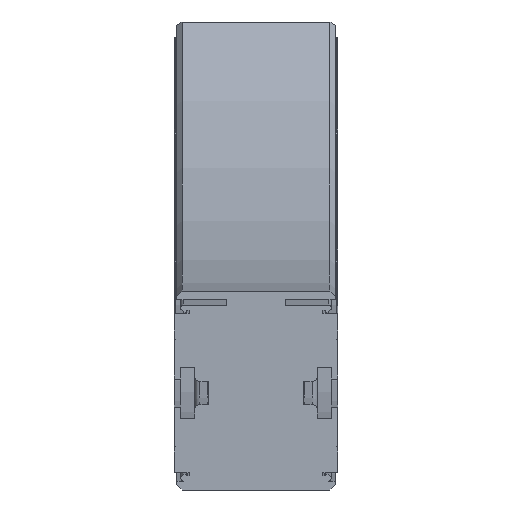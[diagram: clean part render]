
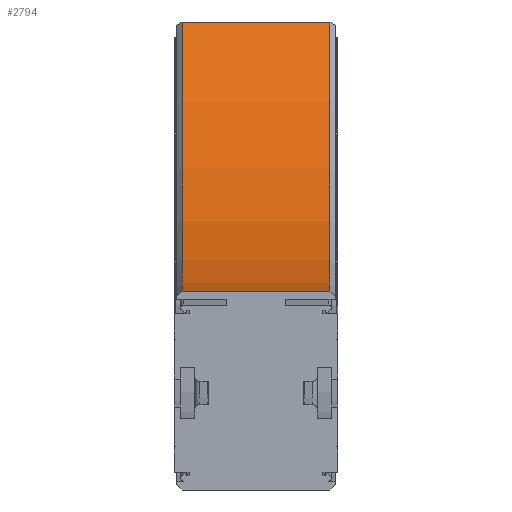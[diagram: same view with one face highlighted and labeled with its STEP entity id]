
A CAD part, front view. The second image highlights one B-rep face of the part: STEP entity #2794.
In plain terms, the highlighted cylindrical face has radius 360 mm (diameter 720 mm), a partial arc.
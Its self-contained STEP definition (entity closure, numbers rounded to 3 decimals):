
#88=CYLINDRICAL_SURFACE('',#3073,360.);
#298=CIRCLE('',#3072,360.);
#299=CIRCLE('',#3074,360.);
#463=FACE_OUTER_BOUND('',#617,.T.);
#617=EDGE_LOOP('',(#2255,#2256,#2257,#2258));
#805=LINE('',#9301,#1011);
#806=LINE('',#9303,#1012);
#1011=VECTOR('',#3758,10.);
#1012=VECTOR('',#3759,10.);
#1277=VERTEX_POINT('',#9294);
#1278=VERTEX_POINT('',#9296);
#1279=VERTEX_POINT('',#9300);
#1280=VERTEX_POINT('',#9302);
#1665=EDGE_CURVE('',#1277,#1278,#298,.T.);
#1666=EDGE_CURVE('',#1279,#1277,#805,.T.);
#1667=EDGE_CURVE('',#1280,#1278,#806,.T.);
#1668=EDGE_CURVE('',#1279,#1280,#299,.T.);
#2255=ORIENTED_EDGE('',*,*,#1666,.T.);
#2256=ORIENTED_EDGE('',*,*,#1665,.T.);
#2257=ORIENTED_EDGE('',*,*,#1667,.F.);
#2258=ORIENTED_EDGE('',*,*,#1668,.F.);
#2794=ADVANCED_FACE('',(#463),#88,.F.);
#3072=AXIS2_PLACEMENT_3D('',#9298,#3754,#3755);
#3073=AXIS2_PLACEMENT_3D('',#9299,#3756,#3757);
#3074=AXIS2_PLACEMENT_3D('',#9304,#3760,#3761);
#3754=DIRECTION('center_axis',(1.,0.,0.));
#3755=DIRECTION('ref_axis',(0.,0.,-1.));
#3756=DIRECTION('center_axis',(1.,0.,0.));
#3757=DIRECTION('ref_axis',(0.,0.,-1.));
#3758=DIRECTION('',(1.,0.,0.));
#3759=DIRECTION('',(1.,0.,0.));
#3760=DIRECTION('center_axis',(1.,0.,0.));
#3761=DIRECTION('ref_axis',(0.,0.,-1.));
#9294=CARTESIAN_POINT('',(29.,0.,40.));
#9296=CARTESIAN_POINT('',(29.,254.558,145.442));
#9298=CARTESIAN_POINT('Origin',(29.,0.,400.));
#9299=CARTESIAN_POINT('Origin',(-14.5,0.,400.));
#9300=CARTESIAN_POINT('',(-29.,0.,40.));
#9301=CARTESIAN_POINT('',(-29.,0.,40.));
#9302=CARTESIAN_POINT('',(-29.,254.558,145.442));
#9303=CARTESIAN_POINT('',(-29.,254.558,145.442));
#9304=CARTESIAN_POINT('Origin',(-29.,0.,
400.));
